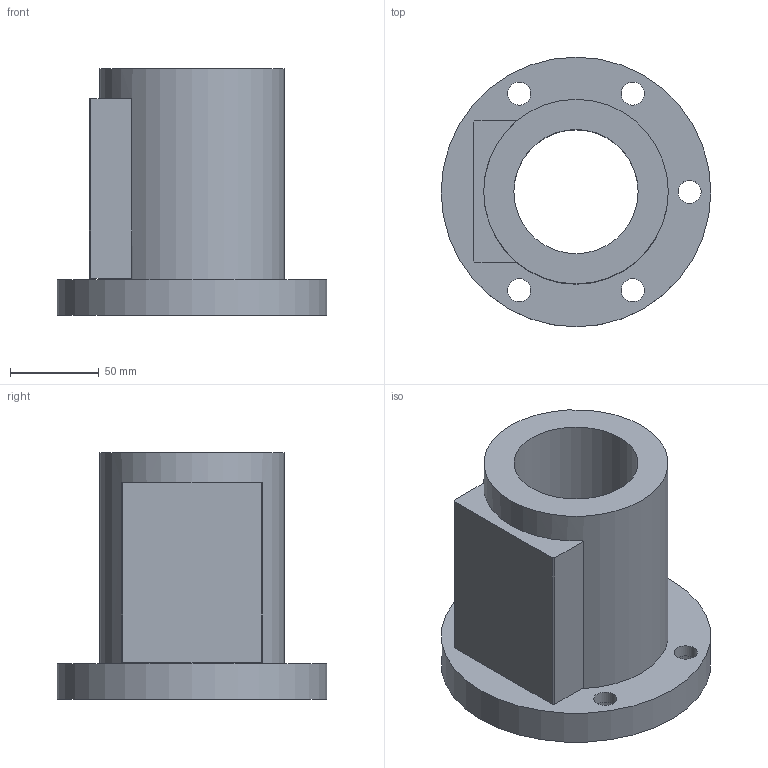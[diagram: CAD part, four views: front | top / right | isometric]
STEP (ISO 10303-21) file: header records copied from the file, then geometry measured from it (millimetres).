
FILE_DESCRIPTION(/* description */ (''),/* implementation_level */ '2;1');
FILE_NAME(/* name */ '70-10B3',/* time_stamp */ '2006-07-31T11:55:30+08:00',/* author */ (''),/* organization */ (''),/* preprocessor_version */ 'ST-DEVELOPER v9',/* originating_system */ 'UGS - NX 4.0',/* authorisation */ '');
FILE_SCHEMA (('CONFIG_CONTROL_DESIGN'));
Length unit declared in the file: millimetre
Products named in the file (1): 70-10B3
Bounding box: 152 x 152 x 139 mm (x, y, z)
Volume: 908372.3 mm3; surface area: 117580.2 mm2
Topology: 1 solids, 1 shells, 30 faces, 67 edges, 46 vertices
Faces by surface type: plane 17, cylinder 13
Full cylindrical faces by diameter (mm): 13 x5, 20 x5, 70 x1, 104 x1, 152 x1
Entity records: 860 total; most frequent: DIRECTION 140, CARTESIAN_POINT 123, ORIENTED_EDGE 100, EDGE_LOOP 62, AXIS2_PLACEMENT_3D 59, EDGE_CURVE 50, FACE_BOUND 45, VERTEX_POINT 42
